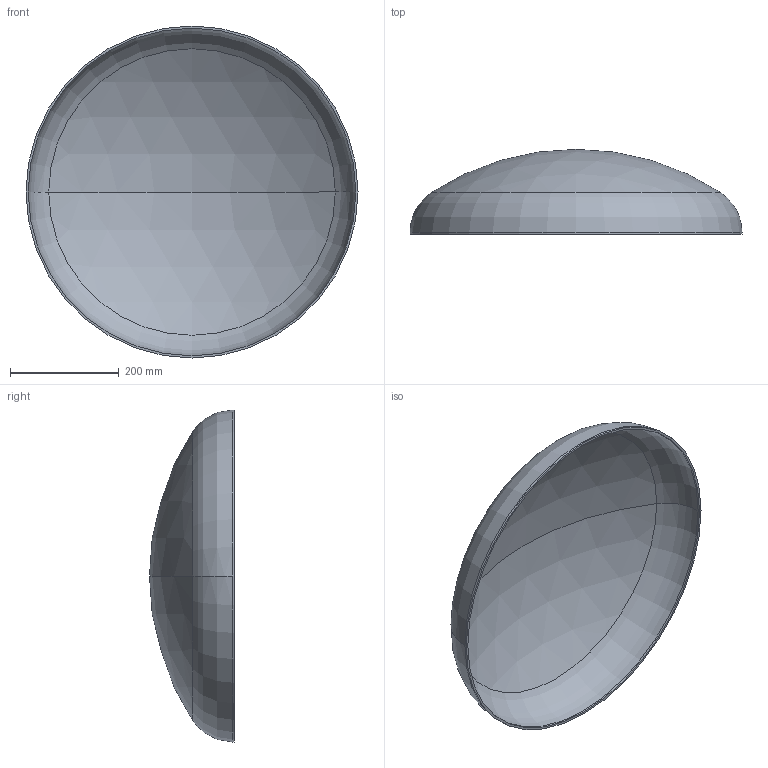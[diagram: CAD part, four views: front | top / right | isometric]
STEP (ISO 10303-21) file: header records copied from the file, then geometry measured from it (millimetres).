
FILE_DESCRIPTION (( 'STEP AP203' ), '1' );
FILE_NAME ('3D_R365_609.6x4_173375480.STEP', '2024-07-16T07:42:59', ( '' ), ( '' ), 'SwSTEP 2.0', 'SolidWorks 2024', '' );
FILE_SCHEMA (( 'CONFIG_CONTROL_DESIGN' ));
Length unit declared in the file: millimetre
Products named in the file (1): 3D_R365_609.6x4_173375480
Bounding box: 609.6 x 156 x 609.6 mm (x, y, z)
Volume: 1598800.7 mm3; surface area: 807043.7 mm2
Topology: 1 solids, 1 shells, 13 faces, 24 edges, 14 vertices
Faces by surface type: sphere 4, torus 4, cylinder 4, plane 1
Entity records: 407 total; most frequent: DIRECTION 72, CARTESIAN_POINT 52, ORIENTED_EDGE 48, AXIS2_PLACEMENT_3D 34, EDGE_CURVE 24, CIRCLE 20, EDGE_LOOP 14, VERTEX_POINT 14
